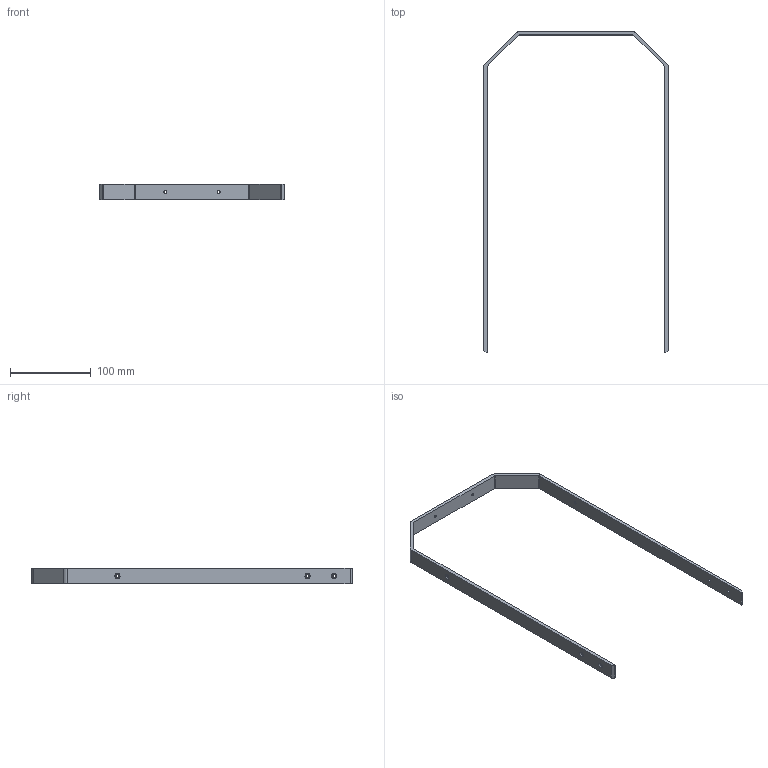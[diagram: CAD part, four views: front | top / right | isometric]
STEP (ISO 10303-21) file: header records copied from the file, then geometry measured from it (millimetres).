
FILE_DESCRIPTION (( 'STEP AP214' ), '1' );
FILE_NAME ('Jetson_Handle.STEP', '2015-02-27T04:39:36', ( '' ), ( '' ), '', '', '' );
FILE_SCHEMA (( '' ));
Length unit declared in the file: millimetre
Products named in the file (1): Jetson_Handle
Bounding box: 228.5 x 397.25 x 19 mm (x, y, z)
Volume: 77462.7 mm3; surface area: 45205 mm2
Topology: 1 solids, 1 shells, 52 faces, 138 edges, 88 vertices
Faces by surface type: cylinder 24, plane 16, cone 12
Entity records: 1681 total; most frequent: DIRECTION 304, CARTESIAN_POINT 279, ORIENTED_EDGE 276, EDGE_CURVE 138, AXIS2_PLACEMENT_3D 113, VERTEX_POINT 88, LINE 78, VECTOR 78
